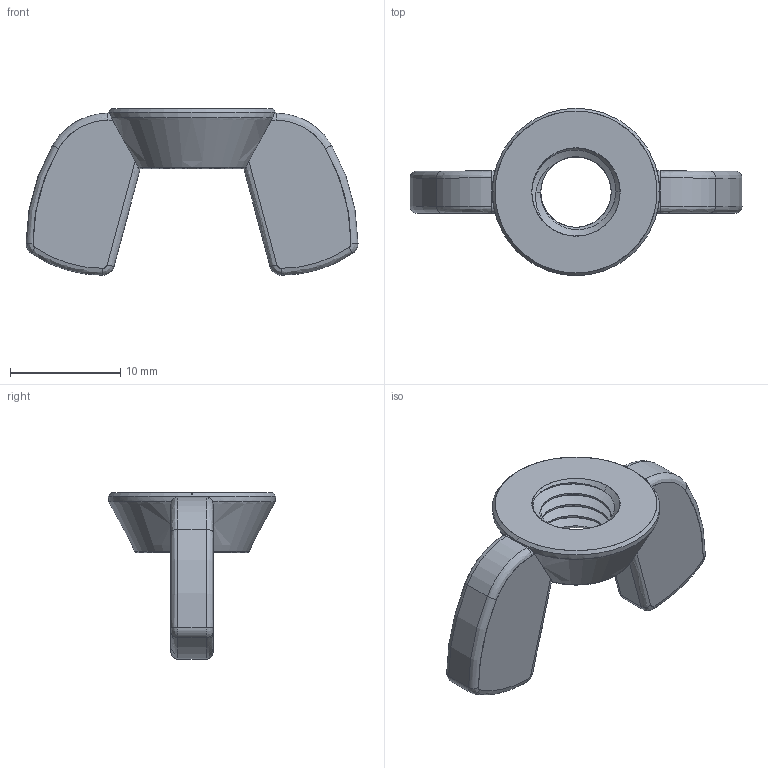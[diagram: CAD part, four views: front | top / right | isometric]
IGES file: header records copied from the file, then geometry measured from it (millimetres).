
Start section: SolidWorks IGES file using analytic representation for surfaces
Global section: file name: C:\Users\Home\Desktop\Wing Nuts Metric\WING NUT M8 x 1.25mm Thread.IGS; native system: SolidWorks 2014; preprocessor: SolidWorks 2014; author: Home; date: 170501.210207; units: millimetre
Bounding box: 30.1 x 15.2 x 15.1 mm (x, y, z)
Surface area: 1226.6 mm2 (no closed solid volume)
Topology: 0 solids, 0 shells, 81 faces, 1147 edges, 1147 vertices
Faces by surface type: revolution 47, bspline 34
